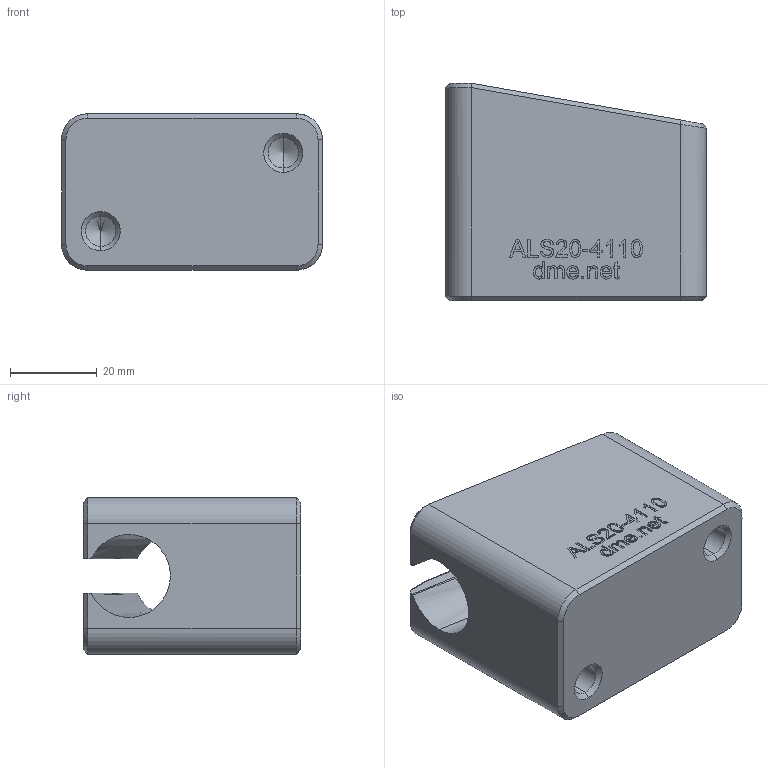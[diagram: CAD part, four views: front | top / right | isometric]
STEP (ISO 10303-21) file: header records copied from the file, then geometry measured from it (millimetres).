
FILE_DESCRIPTION (( 'STEP AP203' ), '1' );
FILE_NAME ('ALS20-4110.STEP', '2021-01-11T12:35:13', ( '' ), ( '' ), 'SwSTEP 2.0', 'SolidWorks 2020', '' );
FILE_SCHEMA (( 'CONFIG_CONTROL_DESIGN' ));
Length unit declared in the file: millimetre
Products named in the file (1): ALS20-4110
Bounding box: 60 x 50 x 36 mm (x, y, z)
Volume: 77727.3 mm3; surface area: 15415 mm2
Topology: 1 solids, 1 shells, 269 faces, 703 edges, 458 vertices
Faces by surface type: plane 142, bspline 99, cone 14, cylinder 14
Entity records: 13624 total; most frequent: CARTESIAN_POINT 7666, ORIENTED_EDGE 1398, DIRECTION 851, EDGE_CURVE 699, VECTOR 461, LINE 461, VERTEX_POINT 458, EDGE_LOOP 295
